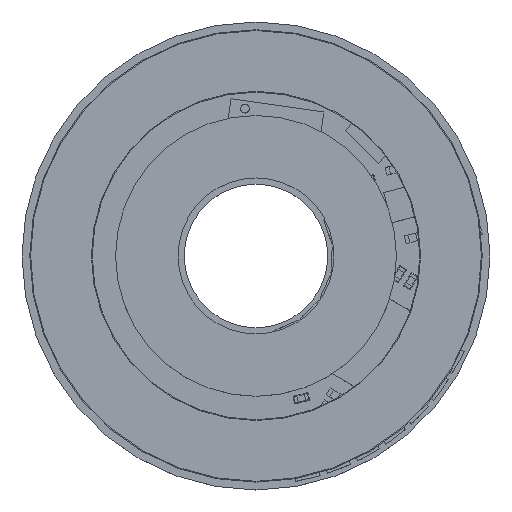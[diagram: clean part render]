
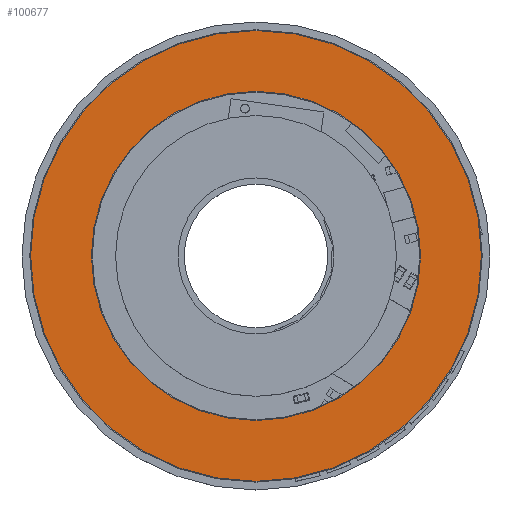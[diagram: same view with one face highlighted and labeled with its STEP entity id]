
A CAD part, top view. The second image highlights one B-rep face of the part: STEP entity #100677.
In plain terms, the highlighted planar face has unit normal (0, 0, 1).
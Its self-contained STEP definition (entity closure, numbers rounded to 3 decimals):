
#100551=CARTESIAN_POINT('',(0.,0.,0.55));
#100552=DIRECTION('',(0.,0.,-1.));
#100553=DIRECTION('',(-1.,0.,0.));
#100554=AXIS2_PLACEMENT_3D('',#100551,#100552,#100553);
#100556=CARTESIAN_POINT('',(0.,0.,0.55));
#100557=DIRECTION('',(0.,0.,-1.));
#100558=DIRECTION('',(1.,0.,0.));
#100559=AXIS2_PLACEMENT_3D('',#100556,#100557,#100558);
#100561=CARTESIAN_POINT('',(0.,0.,0.55));
#100562=DIRECTION('',(0.,0.,1.));
#100563=DIRECTION('',(-1.,0.,0.));
#100564=AXIS2_PLACEMENT_3D('',#100561,#100562,#100563);
#100566=CARTESIAN_POINT('',(0.,0.,0.55));
#100567=DIRECTION('',(0.,0.,1.));
#100568=DIRECTION('',(1.,0.,0.));
#100569=AXIS2_PLACEMENT_3D('',#100566,#100567,#100568);
#100587=CARTESIAN_POINT('',(14.45,0.,0.55));
#100588=VERTEX_POINT('',#100587);
#100589=CARTESIAN_POINT('',(-14.45,0.,0.55));
#100590=VERTEX_POINT('',#100589);
#100591=CARTESIAN_POINT('',(-10.55,0.,0.55));
#100592=CARTESIAN_POINT('',(10.55,0.,0.55));
#100593=VERTEX_POINT('',#100591);
#100594=VERTEX_POINT('',#100592);
#100662=CARTESIAN_POINT('',(0.,0.,0.55));
#100663=DIRECTION('',(0.,0.,1.));
#100664=DIRECTION('',(1.,0.,0.));
#100665=AXIS2_PLACEMENT_3D('',#100662,#100663,#100664);
#100666=PLANE('',#100665);
#100667=ORIENTED_EDGE('',*,*,#100628,.T.);
#100668=ORIENTED_EDGE('',*,*,#100649,.T.);
#100669=EDGE_LOOP('',(#100667,#100668));
#100670=FACE_OUTER_BOUND('',#100669,.F.);
#100672=ORIENTED_EDGE('',*,*,#100671,.T.);
#100674=ORIENTED_EDGE('',*,*,#100673,.T.);
#100675=EDGE_LOOP('',(#100672,#100674));
#100676=FACE_BOUND('',#100675,.F.);
#100677=ADVANCED_FACE('',(#100670,#100676),#100666,.T.);
#100555=CIRCLE('',#100554,14.45);
#100560=CIRCLE('',#100559,14.45);
#100565=CIRCLE('',#100564,10.55);
#100570=CIRCLE('',#100569,10.55);
#100628=EDGE_CURVE('',#100590,#100588,#100555,.T.);
#100649=EDGE_CURVE('',#100588,#100590,#100560,.T.);
#100671=EDGE_CURVE('',#100593,#100594,#100565,.T.);
#100673=EDGE_CURVE('',#100594,#100593,#100570,.T.);
